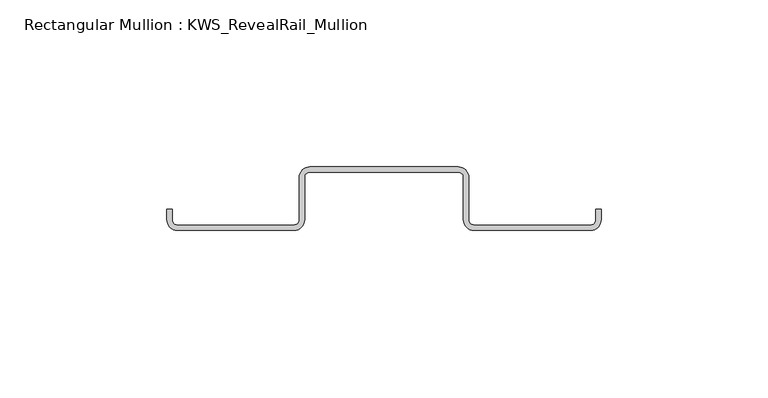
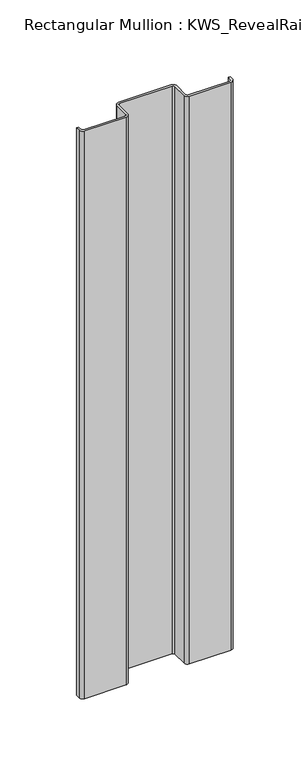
"""IFC4 building model written with IfcOpenShell, lengths in millimetres: member geometry, Rectangular Mullion : KWS_RevealRail_Mullion."""

from ifc_helpers import new_model, si_unit, point, frame, frame_2d, origin, place, context, project, spatial, polyline, circle_curve, trimmed, segment, composite_curve, outline, extrude, source, transform, mapped, element, save


def rectangular_mullion_kws_revealrail_mullion_47fc8865(model_context):
    return source(origin(), model_context, "Body", "SweptSolid", [
        extrude(outline(composite_curve([segment(polyline([(-65.0875, -15.8115), (-65.0875, -12.6365), (-63.5, -12.6365), (-63.5, -15.8115)]), True, "CONTINUOUS"), segment(trimmed(circle_curve(frame_2d((-61.9125, -15.8115)), 1.5875), [point((-63.5, -15.8115))], [point((-61.9125, -17.399))], True, "CARTESIAN"), True, "CONTINUOUS"), segment(polyline([(-61.9125, -17.399), (-26.9875, -17.399)]), True, "CONTINUOUS"), segment(trimmed(circle_curve(frame_2d((-26.9875, -15.8115)), 1.5875), [point((-26.9875, -17.399))], [point((-25.4, -15.8115))], True, "CARTESIAN"), True, "CONTINUOUS"), segment(polyline([(-25.4, -15.8115), (-25.4, -3.1115)]), True, "CONTINUOUS"), segment(trimmed(circle_curve(frame_2d((-22.225, -3.1115)), 3.175), [point((-25.4, -3.1115))], [point((-22.225, 0.0635))], False, "CARTESIAN"), True, "CONTINUOUS"), segment(polyline([(-22.225, 0.0635), (22.225, 0.0635)]), True, "CONTINUOUS"), segment(trimmed(circle_curve(frame_2d((22.225, -3.1115)), 3.175), [point((22.225, 0.0635))], [point((25.4, -3.1115))], False, "CARTESIAN"), True, "CONTINUOUS"), segment(polyline([(25.4, -3.1115), (25.4, -15.8115)]), True, "CONTINUOUS"), segment(trimmed(circle_curve(frame_2d((26.9875, -15.8115)), 1.5875), [point((25.4, -15.8115))], [point((26.9875, -17.399))], True, "CARTESIAN"), True, "CONTINUOUS"), segment(polyline([(26.9875, -17.399), (61.9125, -17.399)]), True, "CONTINUOUS"), segment(trimmed(circle_curve(frame_2d((61.9125, -15.8115)), 1.5875), [point((61.9125, -17.399))], [point((63.5, -15.8115))], True, "CARTESIAN"), True, "CONTINUOUS"), segment(polyline([(63.5, -15.8115), (63.5, -12.6365), (65.0875, -12.6365), (65.0875, -15.8115)]), True, "CONTINUOUS"), segment(trimmed(circle_curve(frame_2d((61.9125, -15.8115)), 3.175), [point((65.0875, -15.8115))], [point((61.9125, -18.9865))], False, "CARTESIAN"), True, "CONTINUOUS"), segment(polyline([(61.9125, -18.9865), (26.9875, -18.9865)]), True, "CONTINUOUS"), segment(trimmed(circle_curve(frame_2d((26.9875, -15.8115)), 3.175), [point((26.9875, -18.9865))], [point((23.8125, -15.8115))], False, "CARTESIAN"), True, "CONTINUOUS"), segment(polyline([(23.8125, -15.8115), (23.8125, -3.1115)]), True, "CONTINUOUS"), segment(trimmed(circle_curve(frame_2d((22.225, -3.1115)), 1.5875), [point((23.8125, -3.1115))], [point((22.225, -1.524))], True, "CARTESIAN"), True, "CONTINUOUS"), segment(polyline([(22.225, -1.524), (-22.225, -1.524)]), True, "CONTINUOUS"), segment(trimmed(circle_curve(frame_2d((-22.225, -3.1115)), 1.5875), [point((-22.225, -1.524))], [point((-23.8125, -3.1115))], True, "CARTESIAN"), True, "CONTINUOUS"), segment(polyline([(-23.8125, -3.1115), (-23.8125, -15.8115)]), True, "CONTINUOUS"), segment(trimmed(circle_curve(frame_2d((-26.9875, -15.8115)), 3.175), [point((-23.8125, -15.8115))], [point((-26.9875, -18.9865))], False, "CARTESIAN"), True, "CONTINUOUS"), segment(polyline([(-26.9875, -18.9865), (-61.9125, -18.9865)]), True, "CONTINUOUS"), segment(trimmed(circle_curve(frame_2d((-61.9125, -15.8115)), 3.175), [point((-61.9125, -18.9865))], [point((-65.0875, -15.8115))], False, "CARTESIAN"), True, "CONTINUOUS")], self_intersect=False)), frame((0.0, 0.0, -507.9999997), z_axis=(0.0, 0.0, 1.0), x_axis=(1.0, 0.0, 0.0)), (0.0, 0.0, 1.0), 507.9999997),
    ])


if __name__ == "__main__":
    model = new_model("IFC4")
    model_context = context("Model", 3, world=origin())
    ifc_project = project(units=[si_unit("LENGTHUNIT", "METRE", prefix="MILLI")], contexts=[model_context])
    site = spatial("IfcSite", under=ifc_project)
    building = spatial("IfcBuilding", under=site)
    placement = place(None, origin())
    rectangular_mullion_kws_revealrail_mullion_shape = rectangular_mullion_kws_revealrail_mullion_47fc8865(model_context)
    element("IfcMember", 1, ObjectType="Rectangular Mullion : KWS_RevealRail_Mullion", at=placement, inside=building, context=model_context, shape_type="MappedRepresentation", body=[
        mapped(rectangular_mullion_kws_revealrail_mullion_shape, transform((0.0, 0.0, 0.0), x_axis=(1.0, 0.0, 0.0), y_axis=(0.0, 1.0, 0.0), z_axis=(0.0, 0.0, 1.0))),
    ])
    save(model, "model.ifc")
